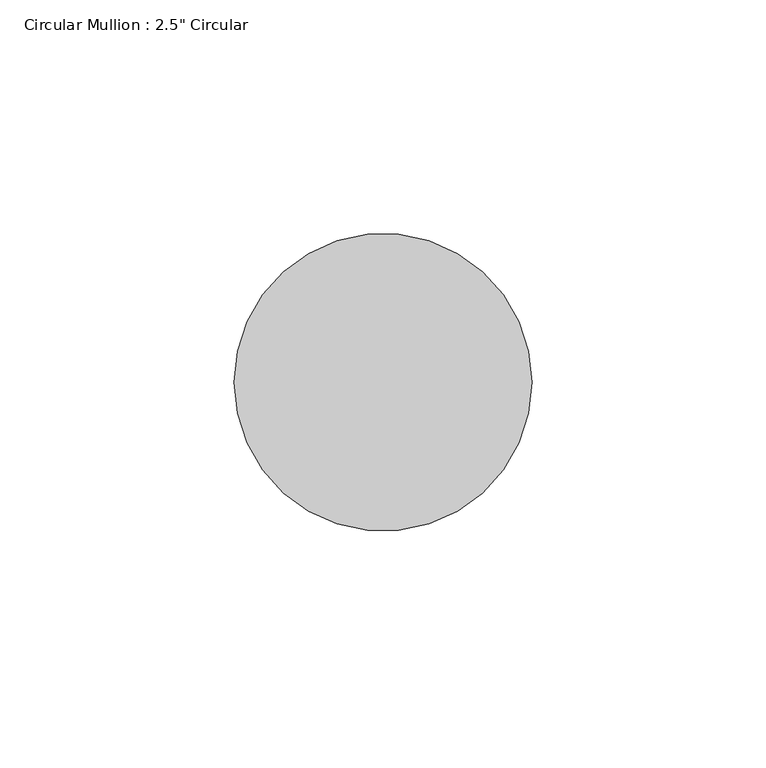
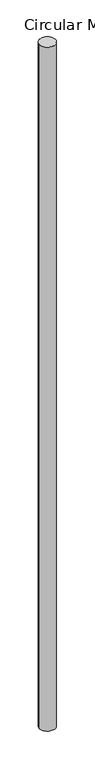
"""IFC4 building model written with IfcOpenShell, lengths in millimetres: member geometry."""

from ifc_helpers import new_model, si_unit, point, frame, origin, origin_2d, place, context, project, spatial, circle_curve, trimmed, segment, composite_curve, outline, extrude, source, transform, mapped, element, save


def member_49bb4068(model_context):
    return source(origin(), model_context, "Body", "SweptSolid", [
        extrude(outline(composite_curve([segment(trimmed(circle_curve(origin_2d(), 31.75), [point((31.75, 0.0))], [point((-31.75, 0.0))], False, "CARTESIAN"), True, "CONTINUOUS"), segment(trimmed(circle_curve(origin_2d(), 31.75), [point((-31.75, 0.0))], [point((31.75, 0.0))], False, "CARTESIAN"), True, "CONTINUOUS")], self_intersect=False)), frame((0.0, 0.0, -2904.8262278), z_axis=(0.0, 0.0, 1.0), x_axis=(1.0, 0.0, 0.0)), (0.0, 0.0, 1.0), 2904.8262278),
    ])


if __name__ == "__main__":
    model = new_model("IFC4")
    model_context = context("Model", 3, world=origin())
    ifc_project = project(units=[si_unit("LENGTHUNIT", "METRE", prefix="MILLI")], contexts=[model_context])
    site = spatial("IfcSite", under=ifc_project)
    building = spatial("IfcBuilding", under=site)
    placement = place(None, origin())
    member_shape = member_49bb4068(model_context)
    element("IfcMember", 1, ObjectType="Circular Mullion : 2.5\" Circular", at=placement, inside=building, context=model_context, shape_type="MappedRepresentation", body=[
        mapped(member_shape, transform((0.0, 0.0, 0.0), x_axis=(1.0, 0.0, 0.0), y_axis=(0.0, 1.0, 0.0), z_axis=(0.0, 0.0, 1.0))),
    ])
    save(model, "model.ifc")
